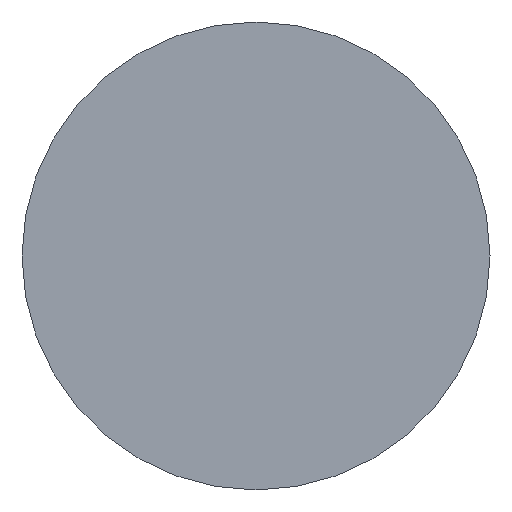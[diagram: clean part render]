
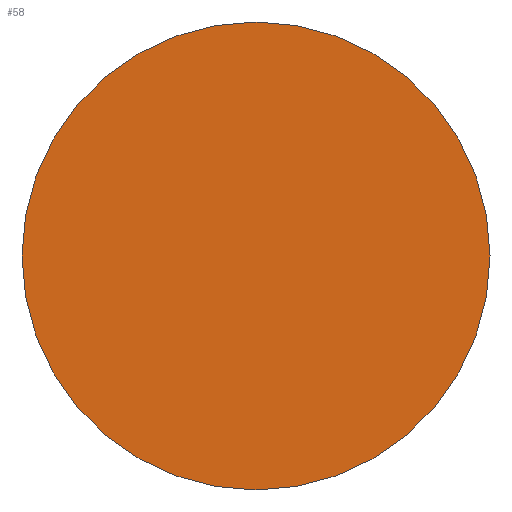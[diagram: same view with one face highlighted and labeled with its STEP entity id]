
A CAD part, top view. The second image highlights one B-rep face of the part: STEP entity #58.
In plain terms, the highlighted planar face has unit normal (0, 0, 1).
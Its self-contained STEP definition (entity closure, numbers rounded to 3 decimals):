
#58=ADVANCED_FACE('',(#121),#122,.T.);
#121=FACE_OUTER_BOUND('',#224,.T.);
#122=PLANE('',#225);
#224=EDGE_LOOP('',(#298));
#225=AXIS2_PLACEMENT_3D('',#299,#300,#301);
#298=ORIENTED_EDGE('',*,*,#338,.F.);
#299=CARTESIAN_POINT('',(-10.5,0.0,0.));
#300=DIRECTION('',(0.,0.,1.0));
#301=DIRECTION('',(1.0,0.,0.));
#338=EDGE_CURVE('',#377,#377,#378,.T.);
#377=VERTEX_POINT('',#421);
#378=CIRCLE('',#422,21.);
#421=CARTESIAN_POINT('',(-21.,0.,0.));
#422=AXIS2_PLACEMENT_3D('',#471,#472,#473);
#471=CARTESIAN_POINT('',(0.0,0.0,0.0));
#472=DIRECTION('',(0.,0.,-1.0));
#473=DIRECTION('',(-1.0,0.,0.));
